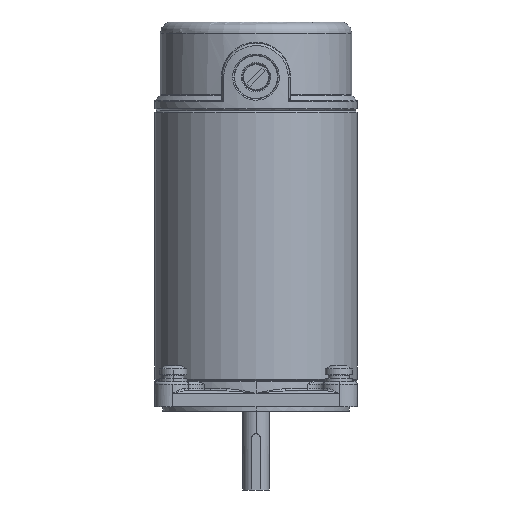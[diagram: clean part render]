
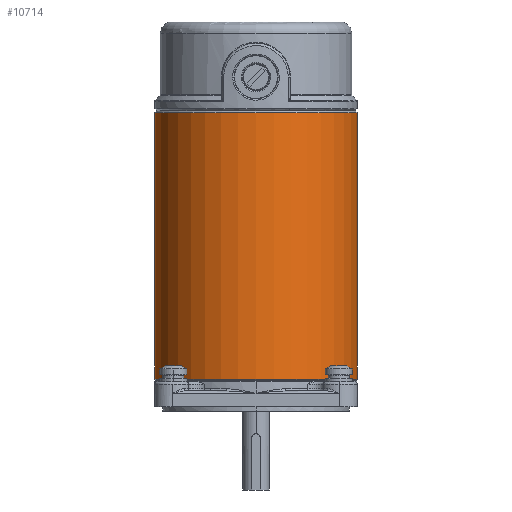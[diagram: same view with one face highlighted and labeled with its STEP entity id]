
A CAD part, left-side view. The second image highlights one B-rep face of the part: STEP entity #10714.
In plain terms, the highlighted cylindrical face has radius 45 mm (diameter 90 mm), a partial arc.
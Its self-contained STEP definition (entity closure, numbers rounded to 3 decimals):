
#547 = VECTOR ( 'NONE', #1283, 1000. ) ;
#609 = AXIS2_PLACEMENT_3D ( 'NONE', #24347, #20310, #14033 ) ;
#999 = CARTESIAN_POINT ( 'NONE',  ( -7.759, 0.828, 0. ) ) ;
#1113 = EDGE_CURVE ( 'NONE', #13915, #9623, #19647, .T. ) ;
#1283 = DIRECTION ( 'NONE',  ( 0., 1., 0. ) ) ;
#3069 = CARTESIAN_POINT ( 'NONE',  ( -7.759, 119.172, 0. ) ) ;
#4106 = AXIS2_PLACEMENT_3D ( 'NONE', #999, #13468, #13601 ) ;
#4491 = VECTOR ( 'NONE', #10527, 1000. ) ;
#4558 = DIRECTION ( 'NONE',  ( 0., 0., 1. ) ) ;
#4605 = CIRCLE ( 'NONE', #14038, 45. ) ;
#5406 = CARTESIAN_POINT ( 'NONE',  ( -7.759, 0.828, 45. ) ) ;
#5617 = ORIENTED_EDGE ( 'NONE', *, *, #23439, .T. ) ;
#6248 = EDGE_CURVE ( 'NONE', #24959, #9623, #4605, .T. ) ;
#6505 = ORIENTED_EDGE ( 'NONE', *, *, #20099, .T. ) ;
#6901 = VERTEX_POINT ( 'NONE', #12471 ) ;
#9623 = VERTEX_POINT ( 'NONE', #22128 ) ;
#10118 = CYLINDRICAL_SURFACE ( 'NONE', #609, 45. ) ;
#10274 = ORIENTED_EDGE ( 'NONE', *, *, #6248, .T. ) ;
#10383 = LINE ( 'NONE', #18695, #4491 ) ;
#10527 = DIRECTION ( 'NONE',  ( 0., 1., 0. ) ) ;
#10714 = ADVANCED_FACE ( 'NONE', ( #13889 ), #10118, .T. ) ;
#10997 = DIRECTION ( 'NONE',  ( 0., 1., 0. ) ) ;
#11307 = CIRCLE ( 'NONE', #16013, 45. ) ;
#12471 = CARTESIAN_POINT ( 'NONE',  ( -52.759, 0.828, 0. ) ) ;
#13031 = ORIENTED_EDGE ( 'NONE', *, *, #1113, .F. ) ;
#13468 = DIRECTION ( 'NONE',  ( 0., 1., 0. ) ) ;
#13601 = DIRECTION ( 'NONE',  ( 0., 0., 1. ) ) ;
#13889 = FACE_OUTER_BOUND ( 'NONE', #15297, .T. ) ;
#13915 = VERTEX_POINT ( 'NONE', #17263 ) ;
#14033 = DIRECTION ( 'NONE',  ( 0., 0., 1. ) ) ;
#14038 = AXIS2_PLACEMENT_3D ( 'NONE', #3069, #25341, #17039 ) ;
#15257 = EDGE_CURVE ( 'NONE', #15302, #24959, #10383, .T. ) ;
#15297 = EDGE_LOOP ( 'NONE', ( #13031, #6505, #5617, #22600, #10274 ) ) ;
#15302 = VERTEX_POINT ( 'NONE', #5406 ) ;
#15685 = CIRCLE ( 'NONE', #4106, 45. ) ;
#16013 = AXIS2_PLACEMENT_3D ( 'NONE', #23330, #10997, #4558 ) ;
#17039 = DIRECTION ( 'NONE',  ( 0., 0., 1. ) ) ;
#17263 = CARTESIAN_POINT ( 'NONE',  ( -7.759, 0.828, -45. ) ) ;
#17887 = CARTESIAN_POINT ( 'NONE',  ( -7.759, 119.172, 45. ) ) ;
#18695 = CARTESIAN_POINT ( 'NONE',  ( -7.759, 0., 45. ) ) ;
#19517 = CARTESIAN_POINT ( 'NONE',  ( -7.759, 0., -45. ) ) ;
#19647 = LINE ( 'NONE', #19517, #547 ) ;
#20099 = EDGE_CURVE ( 'NONE', #13915, #6901, #15685, .T. ) ;
#20310 = DIRECTION ( 'NONE',  ( 0., 1., 0. ) ) ;
#22128 = CARTESIAN_POINT ( 'NONE',  ( -7.759, 119.172, -45. ) ) ;
#22600 = ORIENTED_EDGE ( 'NONE', *, *, #15257, .T. ) ;
#23330 = CARTESIAN_POINT ( 'NONE',  ( -7.759, 0.828, 0. ) ) ;
#23439 = EDGE_CURVE ( 'NONE', #6901, #15302, #11307, .T. ) ;
#24347 = CARTESIAN_POINT ( 'NONE',  ( -7.759, 0., 0. ) ) ;
#24959 = VERTEX_POINT ( 'NONE', #17887 ) ;
#25341 = DIRECTION ( 'NONE',  ( 0., -1., 0. ) ) ;
